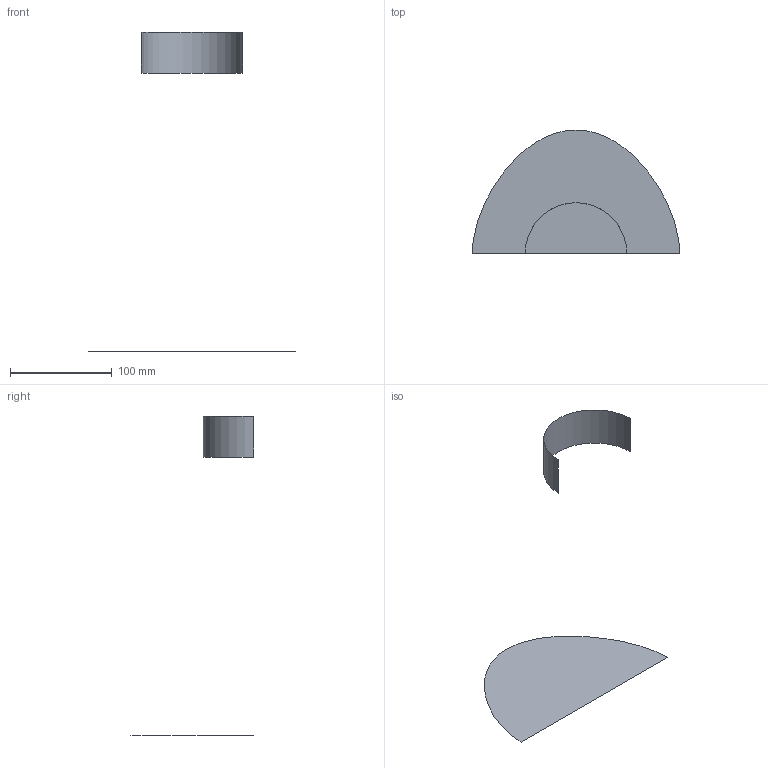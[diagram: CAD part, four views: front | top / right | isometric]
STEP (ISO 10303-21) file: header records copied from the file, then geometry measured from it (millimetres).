
FILE_DESCRIPTION(('CATIA V5 STEP Exchange'),'2;1');
FILE_NAME('C:\_Andres\UNIVERSIDAD\IQS\ASIGNATURAS\DAO\Controles\1617\c1\1original\Esteba_Torres_Ej00-base_v12.stp','2017-02-06T16:27:39+00:00',('none'),('none'),'CATIA Version 5-6 Release 2014 SP1 HF18','CATIA V5 STEP AP203','none');
FILE_SCHEMA(('CONFIG_CONTROL_DESIGN'));
Length unit declared in the file: millimetre
Products named in the file (1): Esteba_Torres_Ej00-base_v12
Bounding box: 204 x 122 x 314 mm (x, y, z)
Surface area: 25033 mm2 (no closed solid volume)
Topology: 0 solids, 2 shells, 2 faces, 16 edges, 26 vertices
Faces by surface type: cylinder 1, plane 1
Entity records: 230 total; most frequent: CARTESIAN_POINT 78, DIRECTION 16, COMPOSITE_CURVE_SEGMENT 9, TRIMMED_CURVE 9, AXIS2_PLACEMENT_3D 8, COMPOSITE_CURVE 7, ORIENTED_EDGE 7, EDGE_CURVE 7
